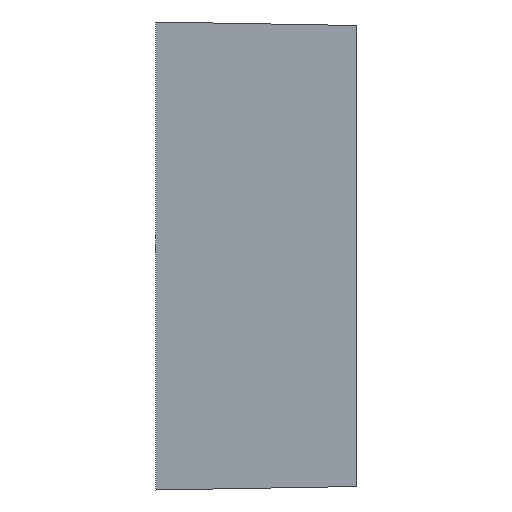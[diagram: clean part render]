
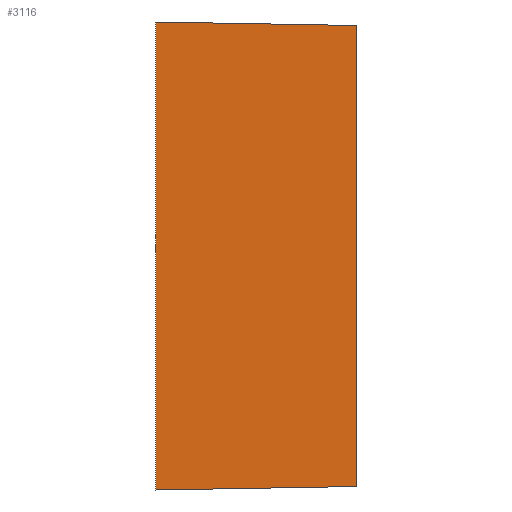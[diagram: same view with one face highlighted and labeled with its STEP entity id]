
A CAD part, left-side view. The second image highlights one B-rep face of the part: STEP entity #3116.
In plain terms, the highlighted planar face has unit normal (-1, 0, 0).
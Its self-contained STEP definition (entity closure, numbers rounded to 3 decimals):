
#564 = CARTESIAN_POINT ( 'NONE',  ( -26.167, 8.9, -27.071 ) ) ;
#671 = ORIENTED_EDGE ( 'NONE', *, *, #6618, .F. ) ;
#900 = EDGE_CURVE ( 'NONE', #7072, #1871, #5649, .T. ) ;
#1673 = AXIS2_PLACEMENT_3D ( 'NONE', #5696, #2123, #6645 ) ;
#1871 = VERTEX_POINT ( 'NONE', #4530 ) ;
#2032 = EDGE_LOOP ( 'NONE', ( #2266, #6657, #2596, #671 ) ) ;
#2080 = DIRECTION ( 'NONE',  ( 0., 0., -1. ) ) ;
#2123 = DIRECTION ( 'NONE',  ( 1., 0., 0. ) ) ;
#2266 = ORIENTED_EDGE ( 'NONE', *, *, #2444, .F. ) ;
#2267 = DIRECTION ( 'NONE',  ( 0., 1., -0.017 ) ) ;
#2444 = EDGE_CURVE ( 'NONE', #1871, #5328, #6925, .T. ) ;
#2465 = DIRECTION ( 'NONE',  ( 0., -1., -0.017 ) ) ;
#2596 = ORIENTED_EDGE ( 'NONE', *, *, #7145, .F. ) ;
#2638 = LINE ( 'NONE', #2674, #5507 ) ;
#2674 = CARTESIAN_POINT ( 'NONE',  ( -26.167, 8.9, 27.071 ) ) ;
#3116 = ADVANCED_FACE ( 'NONE', ( #6716 ), #5575, .F. ) ;
#3304 = VECTOR ( 'NONE', #4241, 1000. ) ;
#3849 = VERTEX_POINT ( 'NONE', #5765 ) ;
#4241 = DIRECTION ( 'NONE',  ( 0., 0., 1. ) ) ;
#4257 = LINE ( 'NONE', #5941, #7139 ) ;
#4319 = CARTESIAN_POINT ( 'NONE',  ( -26.167, 32.5, 27.483 ) ) ;
#4530 = CARTESIAN_POINT ( 'NONE',  ( -26.167, 32.5, -27.483 ) ) ;
#4835 = VECTOR ( 'NONE', #2267, 1000. ) ;
#5328 = VERTEX_POINT ( 'NONE', #4319 ) ;
#5507 = VECTOR ( 'NONE', #2080, 1000. ) ;
#5575 = PLANE ( 'NONE',  #1673 ) ;
#5649 = LINE ( 'NONE', #564, #4835 ) ;
#5696 = CARTESIAN_POINT ( 'NONE',  ( -26.167, 8.9, 0. ) ) ;
#5765 = CARTESIAN_POINT ( 'NONE',  ( -26.167, 8.9, 27.071 ) ) ;
#5785 = CARTESIAN_POINT ( 'NONE',  ( -26.167, 32.5, -27.5 ) ) ;
#5941 = CARTESIAN_POINT ( 'NONE',  ( -26.167, 33.5, 27.5 ) ) ;
#6618 = EDGE_CURVE ( 'NONE', #5328, #3849, #4257, .T. ) ;
#6645 = DIRECTION ( 'NONE',  ( 0., 1., 0. ) ) ;
#6657 = ORIENTED_EDGE ( 'NONE', *, *, #900, .F. ) ;
#6716 = FACE_OUTER_BOUND ( 'NONE', #2032, .T. ) ;
#6901 = CARTESIAN_POINT ( 'NONE',  ( -26.167, 8.9, -27.071 ) ) ;
#6925 = LINE ( 'NONE', #5785, #3304 ) ;
#7072 = VERTEX_POINT ( 'NONE', #6901 ) ;
#7139 = VECTOR ( 'NONE', #2465, 1000. ) ;
#7145 = EDGE_CURVE ( 'NONE', #3849, #7072, #2638, .T. ) ;
